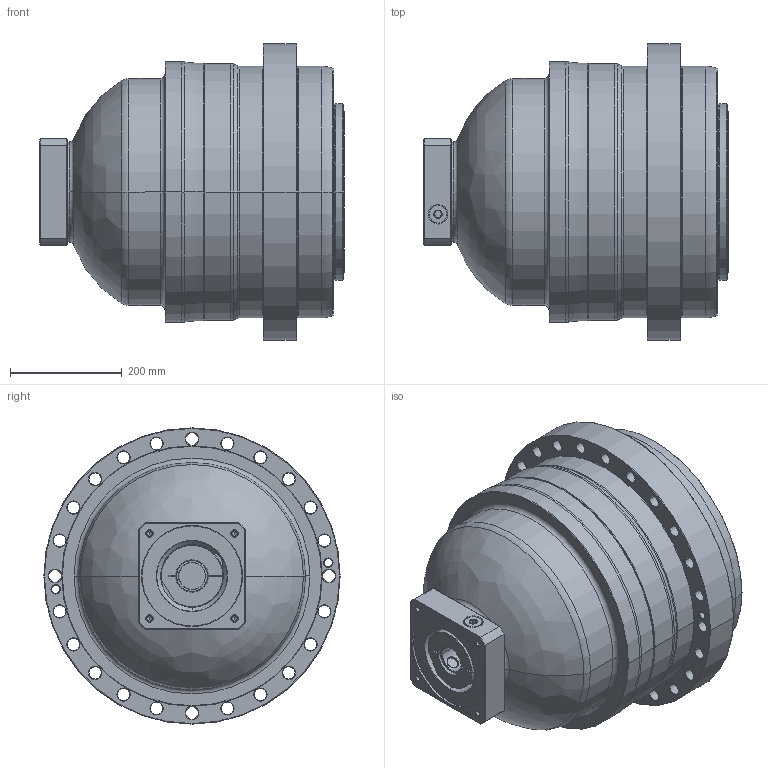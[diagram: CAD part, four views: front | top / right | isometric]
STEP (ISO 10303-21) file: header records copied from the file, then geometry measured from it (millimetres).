
FILE_DESCRIPTION((''),'2;1');
FILE_NAME('AP450_3ST_48-P0409B10201_ASM','2018-06-08T',('d01226'),(''),'PRO/ENGINEER BY PARAMETRIC TECHNOLOGY CORPORATION, 2008410','PRO/ENGINEER BY PARAMETRIC TECHNOLOGY CORPORATION, 2008410','');
FILE_SCHEMA(('CONFIG_CONTROL_DESIGN'));
Length unit declared in the file: millimetre
Products named in the file (9): P0276201003; P0357201103; P1366A00301; P0503B00016; P0912753001; P1222200001; P0409B10201; 21711426021; AP450_3ST_48-P0409B10201_ASM
Assembly tree (8 placements, depth 2):
  AP450_3ST_48-P0409B10201_ASM
    P0276201003
    P0357201103
    P1366A00301
    P0503B00016
    P0912753001
    P1222200001
    P0409B10201
    21711426021
Bounding box: 544.5 x 530 x 530 mm (x, y, z)
Volume: 54159882.3 mm3; surface area: 2102897 mm2
Topology: 9 solids, 31 shells, 615 faces, 1425 edges, 868 vertices
Faces by surface type: cylinder 247, cone 176, plane 96, torus 82, bspline 14
Entity records: 22671 total; most frequent: CARTESIAN_POINT 7933, DIRECTION 3387, ORIENTED_EDGE 2746, AXIS2_PLACEMENT_3D 1450, EDGE_CURVE 1417, VERTEX_POINT 868, CIRCLE 822, EDGE_LOOP 755
